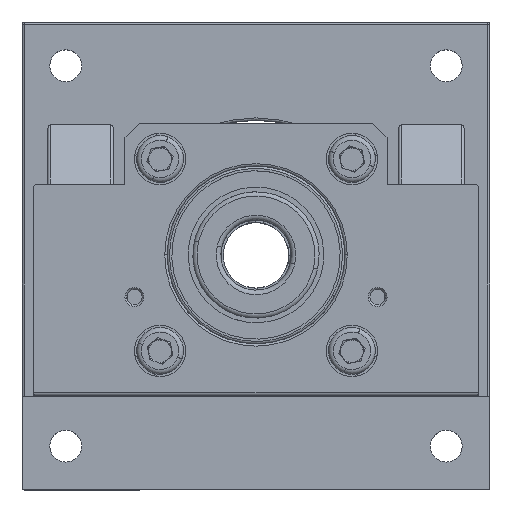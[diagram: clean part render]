
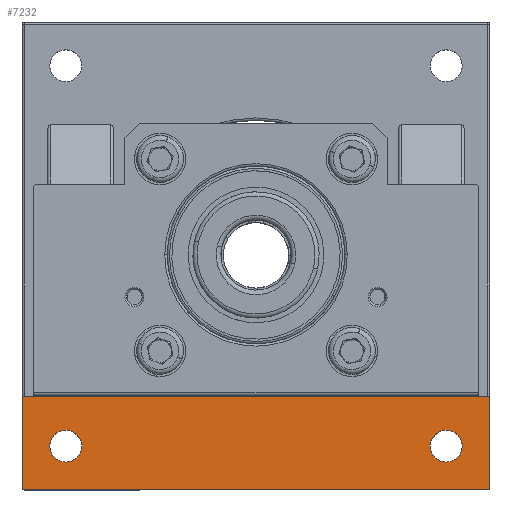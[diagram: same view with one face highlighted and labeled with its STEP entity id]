
A CAD part, top view. The second image highlights one B-rep face of the part: STEP entity #7232.
In plain terms, the highlighted planar face has unit normal (0, 0, 1).
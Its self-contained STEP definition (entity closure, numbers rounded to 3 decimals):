
#137 = CARTESIAN_POINT ( 'NONE',  ( 49.5, -50., -115. ) ) ;
#389 = DIRECTION ( 'NONE',  ( -1., 0., 0. ) ) ;
#417 = LINE ( 'NONE', #6767, #10679 ) ;
#498 = CARTESIAN_POINT ( 'NONE',  ( 50., -49.5, -115. ) ) ;
#524 = EDGE_LOOP ( 'NONE', ( #6944, #3860 ) ) ;
#750 = AXIS2_PLACEMENT_3D ( 'NONE', #933, #6890, #1859 ) ;
#933 = CARTESIAN_POINT ( 'NONE',  ( 40.659, -40.659, -115. ) ) ;
#1001 = FACE_BOUND ( 'NONE', #10142, .T. ) ;
#1098 = LINE ( 'NONE', #8247, #9634 ) ;
#1105 = ORIENTED_EDGE ( 'NONE', *, *, #8917, .T. ) ;
#1223 = CARTESIAN_POINT ( 'NONE',  ( 49.5, -49.5, -115. ) ) ;
#1277 = FACE_OUTER_BOUND ( 'NONE', #6962, .T. ) ;
#1472 = CARTESIAN_POINT ( 'NONE',  ( 50., -30., -115. ) ) ;
#1481 = EDGE_CURVE ( 'NONE', #6314, #3077, #1098, .T. ) ;
#1525 = CARTESIAN_POINT ( 'NONE',  ( -44.059, -40.659, -115. ) ) ;
#1724 = LINE ( 'NONE', #1472, #10156 ) ;
#1749 = ORIENTED_EDGE ( 'NONE', *, *, #3607, .T. ) ;
#1859 = DIRECTION ( 'NONE',  ( -1., 0., 0. ) ) ;
#2052 = CARTESIAN_POINT ( 'NONE',  ( 44.059, -40.659, -115. ) ) ;
#2071 = DIRECTION ( 'NONE',  ( -1., 0., 0. ) ) ;
#2106 = DIRECTION ( 'NONE',  ( 0., 0., -1. ) ) ;
#2125 = CIRCLE ( 'NONE', #6408, 3.4 ) ;
#2152 = DIRECTION ( 'NONE',  ( -1., 0., 0. ) ) ;
#2187 = PLANE ( 'NONE',  #8941 ) ;
#2353 = AXIS2_PLACEMENT_3D ( 'NONE', #8215, #3355, #9011 ) ;
#2354 = ORIENTED_EDGE ( 'NONE', *, *, #3139, .T. ) ;
#2394 = CARTESIAN_POINT ( 'NONE',  ( 50., -30., -115. ) ) ;
#2562 = EDGE_CURVE ( 'NONE', #6388, #9350, #417, .T. ) ;
#2603 = VERTEX_POINT ( 'NONE', #6361 ) ;
#2908 = CIRCLE ( 'NONE', #750, 3.4 ) ;
#3077 = VERTEX_POINT ( 'NONE', #9233 ) ;
#3139 = EDGE_CURVE ( 'NONE', #2603, #10767, #8352, .T. ) ;
#3355 = DIRECTION ( 'NONE',  ( 0., 0., 1. ) ) ;
#3548 = ORIENTED_EDGE ( 'NONE', *, *, #2562, .F. ) ;
#3607 = EDGE_CURVE ( 'NONE', #6388, #2603, #1724, .T. ) ;
#3629 = DIRECTION ( 'NONE',  ( 0., 0., 1. ) ) ;
#3832 = VECTOR ( 'NONE', #7380, 1000. ) ;
#3860 = ORIENTED_EDGE ( 'NONE', *, *, #7665, .F. ) ;
#4125 = AXIS2_PLACEMENT_3D ( 'NONE', #4282, #9835, #5099 ) ;
#4251 = ORIENTED_EDGE ( 'NONE', *, *, #8865, .F. ) ;
#4282 = CARTESIAN_POINT ( 'NONE',  ( -49.5, -49.5, -115. ) ) ;
#4836 = VERTEX_POINT ( 'NONE', #8621 ) ;
#5099 = DIRECTION ( 'NONE',  ( -1., 0., 0. ) ) ;
#6131 = CARTESIAN_POINT ( 'NONE',  ( -50., -49.5, -115. ) ) ;
#6149 = CIRCLE ( 'NONE', #4125, 0.5 ) ;
#6314 = VERTEX_POINT ( 'NONE', #137 ) ;
#6333 = EDGE_CURVE ( 'NONE', #6569, #6842, #9569, .T. ) ;
#6361 = CARTESIAN_POINT ( 'NONE',  ( -50., -30., -115. ) ) ;
#6388 = VERTEX_POINT ( 'NONE', #8997 ) ;
#6408 = AXIS2_PLACEMENT_3D ( 'NONE', #8450, #3629, #9228 ) ;
#6423 = AXIS2_PLACEMENT_3D ( 'NONE', #1223, #7140, #2152 ) ;
#6548 = VERTEX_POINT ( 'NONE', #2052 ) ;
#6569 = VERTEX_POINT ( 'NONE', #1525 ) ;
#6767 = CARTESIAN_POINT ( 'NONE',  ( 50., -30., -115. ) ) ;
#6842 = VERTEX_POINT ( 'NONE', #7879 ) ;
#6890 = DIRECTION ( 'NONE',  ( 0., 0., 1. ) ) ;
#6899 = CIRCLE ( 'NONE', #6423, 0.5 ) ;
#6944 = ORIENTED_EDGE ( 'NONE', *, *, #6333, .F. ) ;
#6962 = EDGE_LOOP ( 'NONE', ( #1105, #8604, #7167, #3548, #1749, #2354 ) ) ;
#7140 = DIRECTION ( 'NONE',  ( 0., 0., 1. ) ) ;
#7167 = ORIENTED_EDGE ( 'NONE', *, *, #9772, .T. ) ;
#7232 = ADVANCED_FACE ( 'NONE', ( #1277, #1001, #9543 ), #2187, .F. ) ;
#7257 = DIRECTION ( 'NONE',  ( -1., 0., 0. ) ) ;
#7380 = DIRECTION ( 'NONE',  ( 0., -1., 0. ) ) ;
#7512 = DIRECTION ( 'NONE',  ( 0., -1., 0. ) ) ;
#7665 = EDGE_CURVE ( 'NONE', #6842, #6569, #2125, .T. ) ;
#7879 = CARTESIAN_POINT ( 'NONE',  ( -37.259, -40.659, -115. ) ) ;
#8215 = CARTESIAN_POINT ( 'NONE',  ( 40.659, -40.659, -115. ) ) ;
#8247 = CARTESIAN_POINT ( 'NONE',  ( 50., -50., -115. ) ) ;
#8352 = LINE ( 'NONE', #8359, #3832 ) ;
#8359 = CARTESIAN_POINT ( 'NONE',  ( -50., -30., -115. ) ) ;
#8450 = CARTESIAN_POINT ( 'NONE',  ( -40.659, -40.659, -115. ) ) ;
#8604 = ORIENTED_EDGE ( 'NONE', *, *, #1481, .F. ) ;
#8621 = CARTESIAN_POINT ( 'NONE',  ( 37.259, -40.659, -115. ) ) ;
#8865 = EDGE_CURVE ( 'NONE', #6548, #4836, #10348, .T. ) ;
#8917 = EDGE_CURVE ( 'NONE', #10767, #3077, #6149, .T. ) ;
#8941 = AXIS2_PLACEMENT_3D ( 'NONE', #2394, #2106, #2071 ) ;
#8997 = CARTESIAN_POINT ( 'NONE',  ( 50., -30., -115. ) ) ;
#9011 = DIRECTION ( 'NONE',  ( -1., 0., 0. ) ) ;
#9058 = EDGE_CURVE ( 'NONE', #4836, #6548, #2908, .T. ) ;
#9094 = ORIENTED_EDGE ( 'NONE', *, *, #9058, .F. ) ;
#9182 = AXIS2_PLACEMENT_3D ( 'NONE', #10187, #10340, #10139 ) ;
#9228 = DIRECTION ( 'NONE',  ( -1., 0., 0. ) ) ;
#9233 = CARTESIAN_POINT ( 'NONE',  ( -49.5, -50., -115. ) ) ;
#9350 = VERTEX_POINT ( 'NONE', #498 ) ;
#9543 = FACE_BOUND ( 'NONE', #524, .T. ) ;
#9569 = CIRCLE ( 'NONE', #9182, 3.4 ) ;
#9634 = VECTOR ( 'NONE', #7257, 1000. ) ;
#9772 = EDGE_CURVE ( 'NONE', #6314, #9350, #6899, .T. ) ;
#9835 = DIRECTION ( 'NONE',  ( 0., 0., 1. ) ) ;
#10139 = DIRECTION ( 'NONE',  ( -1., 0., 0. ) ) ;
#10142 = EDGE_LOOP ( 'NONE', ( #9094, #4251 ) ) ;
#10156 = VECTOR ( 'NONE', #389, 1000. ) ;
#10187 = CARTESIAN_POINT ( 'NONE',  ( -40.659, -40.659, -115. ) ) ;
#10340 = DIRECTION ( 'NONE',  ( 0., 0., 1. ) ) ;
#10348 = CIRCLE ( 'NONE', #2353, 3.4 ) ;
#10679 = VECTOR ( 'NONE', #7512, 1000. ) ;
#10767 = VERTEX_POINT ( 'NONE', #6131 ) ;
